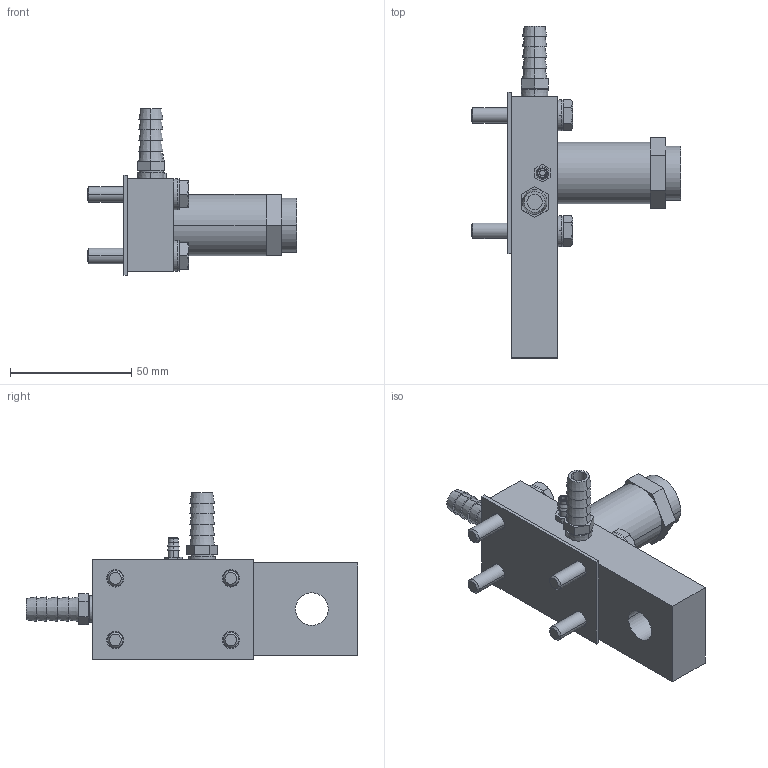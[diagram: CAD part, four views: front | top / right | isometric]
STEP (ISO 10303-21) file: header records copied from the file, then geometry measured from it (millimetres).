
FILE_DESCRIPTION((''),'2;1');
FILE_NAME('UH2_ASM','2017-08-24T',('jennifer.elliott'),('CenterLine (Windsor) Ltd - Automation Components Division'),'PRO/ENGINEER BY PARAMETRIC TECHNOLOGY CORPORATION, 2015030','PRO/ENGINEER BY PARAMETRIC TECHNOLOGY CORPORATION, 2015030','');
FILE_SCHEMA(('AUTOMOTIVE_DESIGN { 1 0 10303 214 1 1 1 1 }'));
Length unit declared in the file: inch
Products named in the file (21): PRT0201; PRT0202; PRT0203; PRT0204; PRT0205; PRT0206; PRT0207; PRT0208; PRT0209; PRT0210; PRT0211; PRT0212; PRT0213; TMP_DWG-3DSOLID_49; TMP_DWG-3DSOLID_50; TMP_DWG-3DSOLID_51; TMP_DWG-3DSOLID_52; PRT0214; TMP_DWG-3DSOLID_54; TMP_DWG-3DSOLID_55; UH2_ASM
Assembly tree (20 placements, depth 2):
  UH2_ASM
    PRT0201
    PRT0202
    PRT0203
    PRT0204
    PRT0205
    PRT0206
    PRT0207
    PRT0208
    PRT0209
    PRT0210
    PRT0211
    PRT0212
    PRT0213
    TMP_DWG-3DSOLID_49
    TMP_DWG-3DSOLID_50
    TMP_DWG-3DSOLID_51
    TMP_DWG-3DSOLID_52
    PRT0214
    TMP_DWG-3DSOLID_54
    TMP_DWG-3DSOLID_55
Bounding box: 86.55 x 136.91 x 68.64 mm (x, y, z)
Volume: 111303.9 mm3; surface area: 41101 mm2
Topology: 20 solids, 20 shells, 269 faces, 578 edges, 374 vertices
Faces by surface type: plane 121, cylinder 84, cone 60, torus 4
Entity records: 8930 total; most frequent: CARTESIAN_POINT 1575, DIRECTION 1416, ORIENTED_EDGE 1156, EDGE_CURVE 578, AXIS2_PLACEMENT_3D 576, VERTEX_POINT 374, EDGE_LOOP 334, FACE_OUTER_BOUND 269
